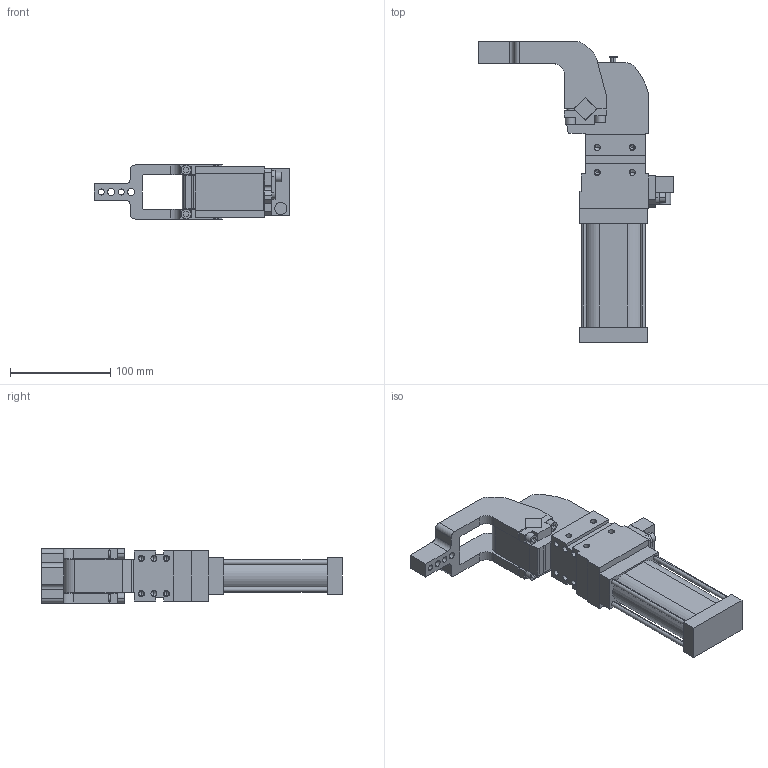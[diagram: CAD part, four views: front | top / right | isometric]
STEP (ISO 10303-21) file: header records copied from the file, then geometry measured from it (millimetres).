
FILE_DESCRIPTION (( 'STEP AP214' ), '1' );
FILE_NAME ('cpl40v3ci1g_103.STEP', '2021-05-25T10:49:04', ( '' ), ( '' ), 'SwSTEP 2.0', 'SolidWorks 2021', '' );
FILE_SCHEMA (( 'AUTOMOTIVE_DESIGN' ));
Length unit declared in the file: millimetre
Products named in the file (5): piastra_blocchetto_cpl40; leva_v3c_cpl40; blocchetto_VEP_0_cpl40; meccanica_cpl40; cpl40v3ci1g_103
Assembly tree (4 placements, depth 2):
  cpl40v3ci1g_103
    meccanica_cpl40
    leva_v3c_cpl40
    blocchetto_VEP_0_cpl40
    piastra_blocchetto_cpl40
Bounding box: 195.5 x 300 x 54 mm (x, y, z)
Volume: 789972.3 mm3; surface area: 122257.8 mm2
Topology: 5 solids, 5 shells, 446 faces, 1142 edges, 717 vertices
Faces by surface type: plane 248, cylinder 150, cone 48
Entity records: 14753 total; most frequent: DIRECTION 2332, CARTESIAN_POINT 2266, ORIENTED_EDGE 2192, EDGE_CURVE 1096, AXIS2_PLACEMENT_3D 783, VECTOR 766, LINE 766, VERTEX_POINT 717
